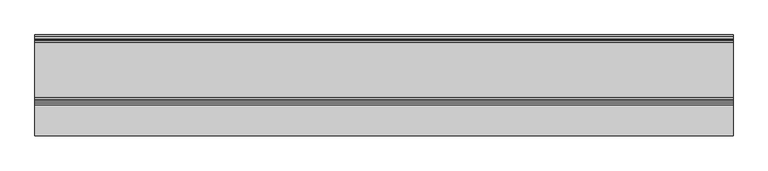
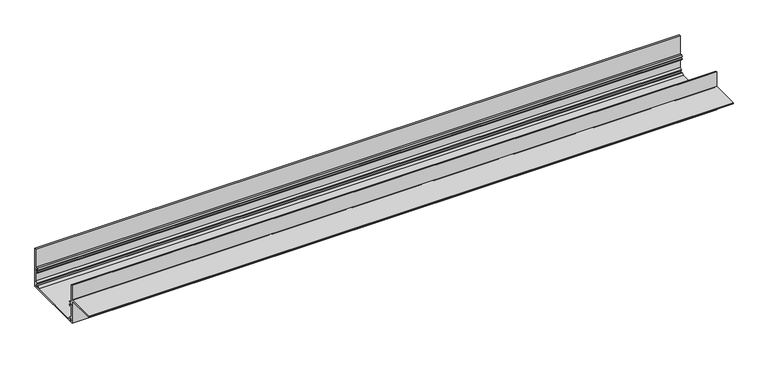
"""IFC4 building model written with IfcOpenShell, lengths in millimetres: proxy geometry, Koryto RENODRAIN : RENODRAIN."""

from ifc_helpers import new_model, si_unit, point, frame, frame_2d, origin, place, context, project, spatial, polyline, circle_curve, trimmed, segment, composite_curve, outline, extrude, source, transform, mapped, element, save


def generic_models_fa7b45f4(model_context):
    return source(origin(), model_context, "Body", "SweptSolid", [
        extrude(outline(composite_curve([segment(trimmed(circle_curve(frame_2d((130.4999995, -13.0)), 2.5), [point((128.334936, -14.25))], [point((128.3256069, -11.7662997))], True, "CARTESIAN"), True, "CONTINUOUS"), segment(polyline([(128.3256069, -11.7662997), (126.1999995, -10.3441888)]), True, "CONTINUOUS"), segment(trimmed(circle_curve(frame_2d((128.2266044, -10.0479666)), 2.0481394), [point((126.1999995, -10.3441888))], [point((128.1999995, -8.0))], False, "CARTESIAN"), True, "CONTINUOUS"), segment(polyline([(128.1999995, -8.0), (132.9999996, -8.0), (132.9999996, 32.0000001), (135.9999996, 32.0000001), (135.9999996, -52.5), (-5e-07, -52.5), (-5e-07, -3.0), (-60.0000005, -3.0), (-60.0000005, 0.0), (-5e-07, 0.0), (-5e-07, 32.0), (2.9999996, 32.0), (2.9999996, -8.0), (7.7999996, -8.0)]), True, "CONTINUOUS"), segment(trimmed(circle_curve(frame_2d((7.8206077, -9.9445202)), 1.9446294), [point((7.7999996, -8.0))], [point((9.6499996, -10.6039964))], False, "CARTESIAN"), True, "CONTINUOUS"), segment(polyline([(9.6499996, -10.6039964), (7.6650631, -11.75)]), True, "CONTINUOUS"), segment(trimmed(circle_curve(frame_2d((5.4999996, -13.0)), 2.5), [point((7.6650631, -11.75))], [point((7.6743923, -14.2337004))], True, "CARTESIAN"), True, "CONTINUOUS"), segment(polyline([(7.6743923, -14.2337004), (9.7999996, -15.6558113)]), True, "CONTINUOUS"), segment(trimmed(circle_curve(frame_2d((7.7887962, -15.9651736)), 2.0348573), [point((9.7999996, -15.6558113))], [point((7.7999996, -18.0))], False, "CARTESIAN"), True, "CONTINUOUS"), segment(polyline([(7.7999996, -18.0), (3.0878675, -18.0), (3.0878675, -38.487868), (6.7442525, -42.356385), (6.1470472, -44.5851854)]), True, "CONTINUOUS"), segment(trimmed(circle_curve(frame_2d((5.4999995, -47.0)), 2.5), [point((6.1470472, -44.5851854))], [point((7.909919, -46.3349524))], True, "CARTESIAN"), True, "CONTINUOUS"), segment(polyline([(7.909919, -46.3349524), (10.4333924, -45.8333928), (14.31734, -49.5), (121.8949018, -49.5), (125.8563845, -45.7557471), (128.085185, -46.3529524)]), True, "CONTINUOUS"), segment(trimmed(circle_curve(frame_2d((130.4999996, -47.0)), 2.5), [point((128.085185, -46.3529524))], [point((129.834952, -44.5900806))], True, "CARTESIAN"), True, "CONTINUOUS"), segment(polyline([(129.834952, -44.5900806), (129.3333924, -42.0666072), (132.9999996, -38.2757359), (132.9999996, -18.0), (128.1999995, -18.0)]), True, "CONTINUOUS"), segment(trimmed(circle_curve(frame_2d((128.1676368, -16.0638309)), 1.9364396), [point((128.1999995, -18.0))], [point((126.3499995, -15.3960036))], False, "CARTESIAN"), True, "CONTINUOUS"), segment(polyline([(126.3499995, -15.3960036), (128.334936, -14.25)]), True, "CONTINUOUS")], self_intersect=False)), frame((0.0, 0.0, 0.0), z_axis=(1.0, 0.0, 0.0), x_axis=(0.0, 1.0, 0.0)), (0.0, 0.0, 1.0), 1358.0),
    ])


if __name__ == "__main__":
    model = new_model("IFC4")
    model_context = context("Model", 3, world=origin())
    ifc_project = project(units=[si_unit("LENGTHUNIT", "METRE", prefix="MILLI")], contexts=[model_context])
    site = spatial("IfcSite", under=ifc_project)
    building = spatial("IfcBuilding", under=site)
    placement = place(None, origin())
    generic_models_shape = generic_models_fa7b45f4(model_context)
    element("IfcBuildingElementProxy", 1, Name="Koryto RENODRAIN : RENODRAIN", ObjectType="Koryto RENODRAIN : RENODRAIN", at=placement, inside=building, context=model_context, shape_type="MappedRepresentation", body=[
        mapped(generic_models_shape, transform((0.0, 0.0, 0.0), x_axis=(1.0, 0.0, 0.0), y_axis=(0.0, 1.0, 0.0), z_axis=(0.0, 0.0, 1.0))),
    ])
    save(model, "model.ifc")
